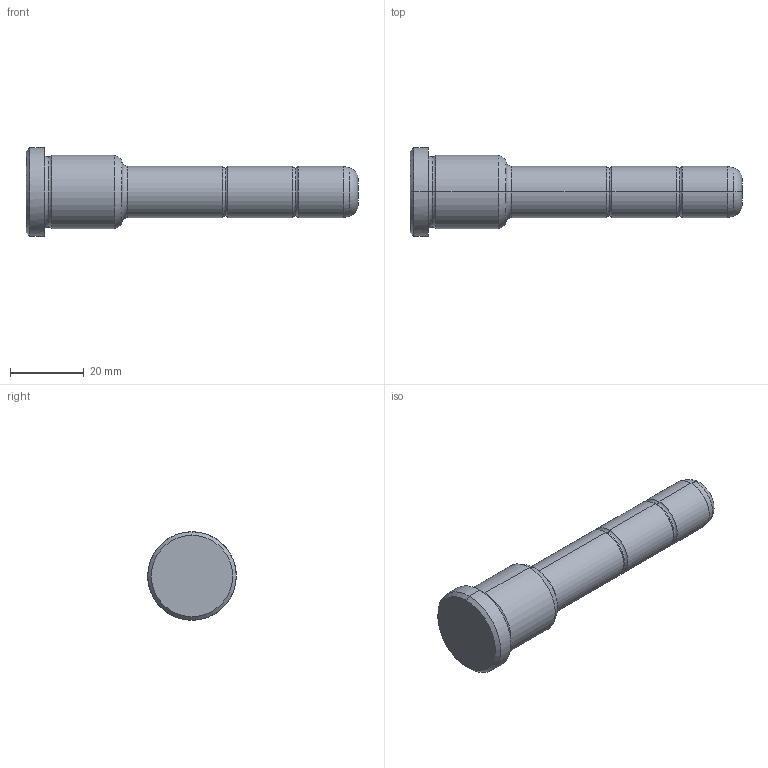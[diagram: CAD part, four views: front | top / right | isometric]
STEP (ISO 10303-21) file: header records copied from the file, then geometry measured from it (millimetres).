
FILE_DESCRIPTION(('CATIA V5 STEP Exchange'),'2;1');
FILE_NAME('C:\Users\Utente\Desktop\IO LAVORO\3D X SITO CF\X SITO\PLASTICA\351\351-14X26X90.stp','2021-08-18T09:54:38+00:00',('none'),('none'),'CATIA Version 5 Release 20 GA (IN-10)','CATIA V5 STEP AP203','none');
FILE_SCHEMA(('CONFIG_CONTROL_DESIGN'));
Length unit declared in the file: millimetre
Products named in the file (1): 351-14X26X90
Bounding box: 90 x 24 x 24 mm (x, y, z)
Volume: 18410.7 mm3; surface area: 5253 mm2
Topology: 1 solids, 1 shells, 36 faces, 102 edges, 70 vertices
Faces by surface type: torus 16, cylinder 10, cone 6, plane 4
Entity records: 1292 total; most frequent: CARTESIAN_POINT 321, ORIENTED_EDGE 204, DIRECTION 166, AXIS2_PLACEMENT_3D 115, EDGE_CURVE 102, CIRCLE 78, VERTEX_POINT 70, EDGE_LOOP 38
